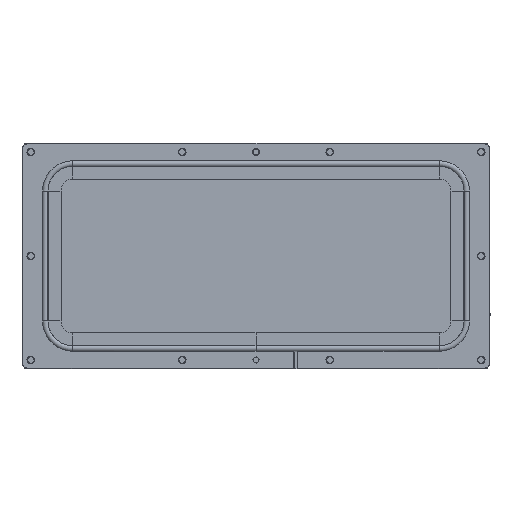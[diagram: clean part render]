
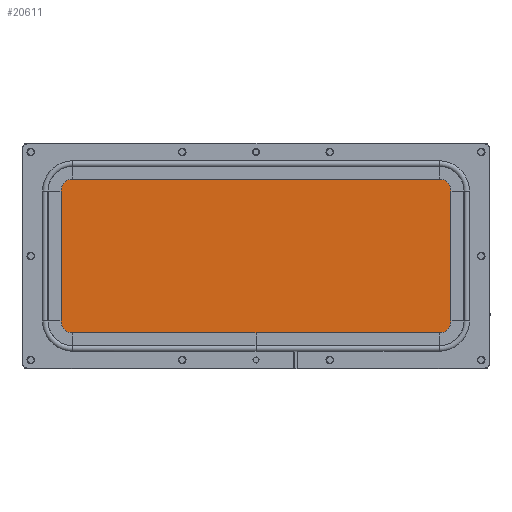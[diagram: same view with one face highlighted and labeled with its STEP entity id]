
A CAD part, front view. The second image highlights one B-rep face of the part: STEP entity #20611.
In plain terms, the highlighted planar face has unit normal (0, -1, 0).
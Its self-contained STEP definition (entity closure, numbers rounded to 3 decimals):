
#1144 = FACE_OUTER_BOUND ( 'NONE', #23456, .T. ) ;
#1222 = DIRECTION ( 'NONE',  ( 0., 1., 0. ) ) ;
#1231 = CARTESIAN_POINT ( 'NONE',  ( 180., 0., 55. ) ) ;
#1575 = ORIENTED_EDGE ( 'NONE', *, *, #19894, .T. ) ;
#1645 = AXIS2_PLACEMENT_3D ( 'NONE', #5480, #26113, #5291 ) ;
#1878 = AXIS2_PLACEMENT_3D ( 'NONE', #20154, #11016, #15544 ) ;
#1956 = VECTOR ( 'NONE', #11368, 1000. ) ;
#2220 = CARTESIAN_POINT ( 'NONE',  ( 180., 0., -55. ) ) ;
#2381 = EDGE_CURVE ( 'NONE', #8234, #13049, #7484, .T. ) ;
#2588 = ORIENTED_EDGE ( 'NONE', *, *, #13139, .T. ) ;
#2772 = LINE ( 'NONE', #16169, #26389 ) ;
#3666 = ORIENTED_EDGE ( 'NONE', *, *, #4295, .T. ) ;
#3732 = VERTEX_POINT ( 'NONE', #1231 ) ;
#4011 = VECTOR ( 'NONE', #18303, 1000. ) ;
#4295 = EDGE_CURVE ( 'NONE', #12382, #15098, #27781, .T. ) ;
#5157 = LINE ( 'NONE', #18481, #1956 ) ;
#5291 = DIRECTION ( 'NONE',  ( 0., 0., 1. ) ) ;
#5480 = CARTESIAN_POINT ( 'NONE',  ( 155., 0., 55. ) ) ;
#5629 = CARTESIAN_POINT ( 'NONE',  ( -155., 0., 55. ) ) ;
#5932 = PLANE ( 'NONE',  #7563 ) ;
#6431 = VERTEX_POINT ( 'NONE', #8913 ) ;
#6701 = CARTESIAN_POINT ( 'NONE',  ( 155., 0., 80. ) ) ;
#7428 = CARTESIAN_POINT ( 'NONE',  ( -155., 0., 55. ) ) ;
#7484 = CIRCLE ( 'NONE', #12331, 25. ) ;
#7563 = AXIS2_PLACEMENT_3D ( 'NONE', #5629, #1222, #26151 ) ;
#8227 = LINE ( 'NONE', #29227, #14706 ) ;
#8234 = VERTEX_POINT ( 'NONE', #12242 ) ;
#8479 = CIRCLE ( 'NONE', #23731, 25. ) ;
#8626 = DIRECTION ( 'NONE',  ( 0., 0., -1. ) ) ;
#8913 = CARTESIAN_POINT ( 'NONE',  ( -155., 0., 80. ) ) ;
#9532 = ORIENTED_EDGE ( 'NONE', *, *, #23283, .T. ) ;
#11016 = DIRECTION ( 'NONE',  ( 0., -1., 0. ) ) ;
#11368 = DIRECTION ( 'NONE',  ( -1., 0., 0. ) ) ;
#11930 = DIRECTION ( 'NONE',  ( 0., -1., 0. ) ) ;
#12242 = CARTESIAN_POINT ( 'NONE',  ( 155., 0., -80. ) ) ;
#12303 = CARTESIAN_POINT ( 'NONE',  ( 155., 0., -55. ) ) ;
#12331 = AXIS2_PLACEMENT_3D ( 'NONE', #12303, #21724, #12411 ) ;
#12382 = VERTEX_POINT ( 'NONE', #26806 ) ;
#12411 = DIRECTION ( 'NONE',  ( 0., 0., 1. ) ) ;
#12950 = LINE ( 'NONE', #25512, #4011 ) ;
#13049 = VERTEX_POINT ( 'NONE', #2220 ) ;
#13139 = EDGE_CURVE ( 'NONE', #6431, #29463, #8479, .T. ) ;
#14706 = VECTOR ( 'NONE', #8626, 1000. ) ;
#15098 = VERTEX_POINT ( 'NONE', #28975 ) ;
#15112 = CIRCLE ( 'NONE', #1645, 25. ) ;
#15544 = DIRECTION ( 'NONE',  ( 0., 0., 1. ) ) ;
#15763 = ORIENTED_EDGE ( 'NONE', *, *, #2381, .T. ) ;
#16169 = CARTESIAN_POINT ( 'NONE',  ( 180., 0., 55. ) ) ;
#18303 = DIRECTION ( 'NONE',  ( 1., 0., 0. ) ) ;
#18481 = CARTESIAN_POINT ( 'NONE',  ( -155., 0., 80. ) ) ;
#19894 = EDGE_CURVE ( 'NONE', #3732, #20815, #15112, .T. ) ;
#20154 = CARTESIAN_POINT ( 'NONE',  ( -155., 0., -55. ) ) ;
#20611 = ADVANCED_FACE ( 'NONE', ( #1144 ), #5932, .F. ) ;
#20733 = ORIENTED_EDGE ( 'NONE', *, *, #27319, .T. ) ;
#20815 = VERTEX_POINT ( 'NONE', #6701 ) ;
#21724 = DIRECTION ( 'NONE',  ( 0., -1., 0. ) ) ;
#22715 = ORIENTED_EDGE ( 'NONE', *, *, #29367, .T. ) ;
#22793 = DIRECTION ( 'NONE',  ( 0., 0., 1. ) ) ;
#23283 = EDGE_CURVE ( 'NONE', #20815, #6431, #5157, .T. ) ;
#23456 = EDGE_LOOP ( 'NONE', ( #3666, #28710, #15763, #22715, #1575, #9532, #2588, #20733 ) ) ;
#23731 = AXIS2_PLACEMENT_3D ( 'NONE', #7428, #11930, #27922 ) ;
#24718 = EDGE_CURVE ( 'NONE', #15098, #8234, #12950, .T. ) ;
#25512 = CARTESIAN_POINT ( 'NONE',  ( -155., 0., -80. ) ) ;
#26113 = DIRECTION ( 'NONE',  ( 0., -1., 0. ) ) ;
#26151 = DIRECTION ( 'NONE',  ( 0., 0., 1. ) ) ;
#26389 = VECTOR ( 'NONE', #22793, 1000. ) ;
#26806 = CARTESIAN_POINT ( 'NONE',  ( -180., 0., -55. ) ) ;
#27319 = EDGE_CURVE ( 'NONE', #29463, #12382, #8227, .T. ) ;
#27781 = CIRCLE ( 'NONE', #1878, 25. ) ;
#27922 = DIRECTION ( 'NONE',  ( 0., 0., 1. ) ) ;
#28710 = ORIENTED_EDGE ( 'NONE', *, *, #24718, .T. ) ;
#28975 = CARTESIAN_POINT ( 'NONE',  ( -155., 0., -80. ) ) ;
#29120 = CARTESIAN_POINT ( 'NONE',  ( -180., 0., 55. ) ) ;
#29227 = CARTESIAN_POINT ( 'NONE',  ( -180., 0., 55. ) ) ;
#29367 = EDGE_CURVE ( 'NONE', #13049, #3732, #2772, .T. ) ;
#29463 = VERTEX_POINT ( 'NONE', #29120 ) ;
